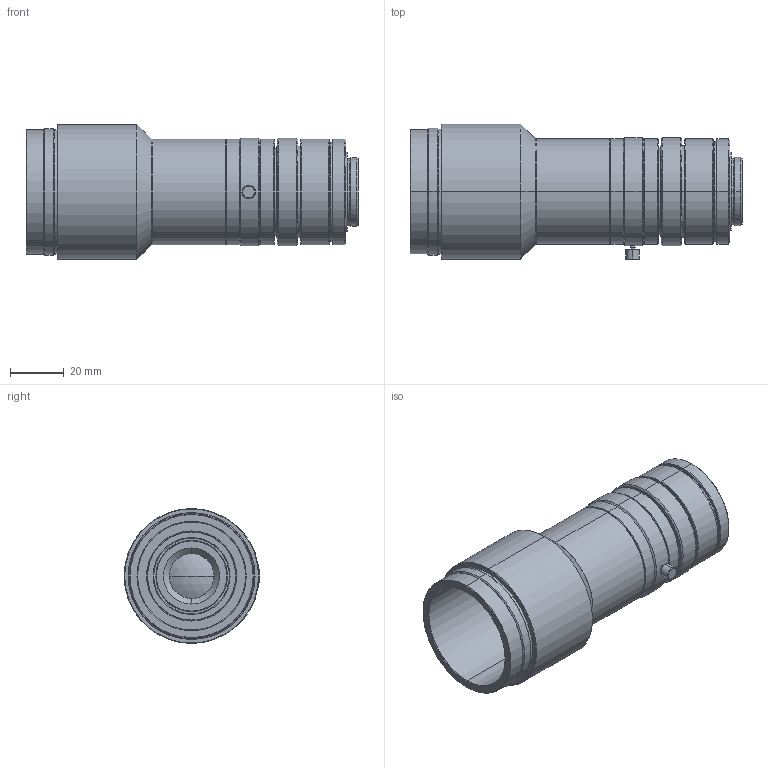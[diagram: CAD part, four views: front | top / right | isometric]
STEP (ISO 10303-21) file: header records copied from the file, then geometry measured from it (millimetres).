
FILE_DESCRIPTION (( 'STEP AP203' ), '1' );
FILE_NAME ('VS-TLS200-006B.STEP', '2020-09-13T12:02:54', ( '' ), ( '' ), 'SwSTEP 2.0', 'SolidWorks 2020', '' );
FILE_SCHEMA (( 'CONFIG_CONTROL_DESIGN' ));
Length unit declared in the file: millimetre
Products named in the file (1): VS-TLS200-006B
Bounding box: 122.97 x 50.3 x 50 mm (x, y, z)
Volume: 111493 mm3; surface area: 30683 mm2
Topology: 1 solids, 1 shells, 195 faces, 392 edges, 230 vertices
Faces by surface type: cone 100, cylinder 60, plane 31, sphere 4
Entity records: 5169 total; most frequent: DIRECTION 1012, CARTESIAN_POINT 850, ORIENTED_EDGE 784, AXIS2_PLACEMENT_3D 426, EDGE_CURVE 392, VERTEX_POINT 230, CIRCLE 230, EDGE_LOOP 226
